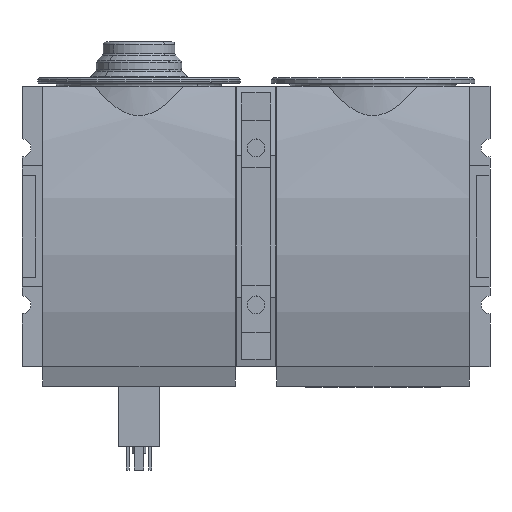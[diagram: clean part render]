
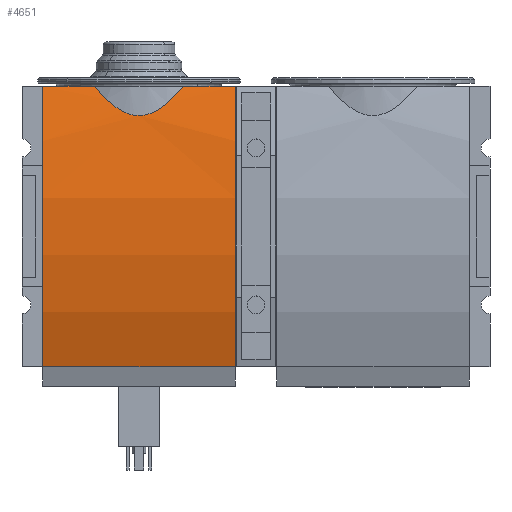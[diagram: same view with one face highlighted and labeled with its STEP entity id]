
A CAD part, front view. The second image highlights one B-rep face of the part: STEP entity #4651.
In plain terms, the highlighted cylindrical face has radius 150 mm (diameter 300 mm), a partial arc.
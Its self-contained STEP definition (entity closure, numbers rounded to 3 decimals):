
#62=CARTESIAN_POINT('',(-35.,0.,98.5));
#63=DIRECTION('',(1.,0.,0.));
#64=DIRECTION('',(0.,-0.34,-0.94));
#65=AXIS2_PLACEMENT_3D('',#62,#63,#64);
#1037=CARTESIAN_POINT('',(35.,0.,98.5));
#1038=DIRECTION('',(1.,0.,0.));
#1039=DIRECTION('',(0.,-0.34,-0.94));
#1040=AXIS2_PLACEMENT_3D('',#1037,#1038,#1039);
#1188=DIRECTION('',(1.,0.,0.));
#1189=VECTOR('',#1188,18.78);
#1190=CARTESIAN_POINT('',(-35.,-51.,-42.564));
#1191=LINE('889',#1190,#1189);
#1195=CARTESIAN_POINT('',(-16.22,-51.,-42.564));
#1196=CARTESIAN_POINT('',(-15.79,-50.472,
-42.755));
#1197=CARTESIAN_POINT('',(-14.952,-49.476,
-43.108));
#1198=CARTESIAN_POINT('',(-13.777,-48.164,
-43.559));
#1199=CARTESIAN_POINT('',(-12.676,-47.013,
-43.944));
#1200=CARTESIAN_POINT('',(-11.646,-46.006,
-44.272));
#1201=CARTESIAN_POINT('',(-10.681,-45.128,-44.552));
#1202=CARTESIAN_POINT('',(-9.774,-44.361,
-44.791));
#1203=CARTESIAN_POINT('',(-8.921,-43.694,
-44.996));
#1204=CARTESIAN_POINT('',(-8.117,-43.115,
-45.171));
#1205=CARTESIAN_POINT('',(-7.352,-42.61,
-45.321));
#1206=CARTESIAN_POINT('',(-6.626,-42.173,
-45.45));
#1207=CARTESIAN_POINT('',(-5.933,-41.796,
-45.56));
#1208=CARTESIAN_POINT('',(-5.269,-41.471,
-45.653));
#1209=CARTESIAN_POINT('',(-4.626,-41.192,
-45.733));
#1210=CARTESIAN_POINT('',(-4.004,-40.955,
-45.801));
#1211=CARTESIAN_POINT('',(-3.4,-40.757,
-45.857));
#1212=CARTESIAN_POINT('',(-2.811,-40.595,
-45.903));
#1213=CARTESIAN_POINT('',(-2.235,-40.465,
-45.939));
#1214=CARTESIAN_POINT('',(-1.669,-40.366,
-45.966));
#1215=CARTESIAN_POINT('',(-1.109,-40.297,
-45.986));
#1216=CARTESIAN_POINT('',(-0.553,-40.255,
-45.997));
#1217=CARTESIAN_POINT('',(0.,-40.242,
-46.001));
#1218=CARTESIAN_POINT('',(0.553,-40.255,
-45.997));
#1219=CARTESIAN_POINT('',(1.109,-40.297,
-45.986));
#1220=CARTESIAN_POINT('',(1.669,-40.366,
-45.966));
#1221=CARTESIAN_POINT('',(2.235,-40.465,
-45.939));
#1222=CARTESIAN_POINT('',(2.811,-40.595,
-45.903));
#1223=CARTESIAN_POINT('',(3.4,-40.757,
-45.857));
#1224=CARTESIAN_POINT('',(4.004,-40.955,
-45.801));
#1225=CARTESIAN_POINT('',(4.626,-41.192,
-45.733));
#1226=CARTESIAN_POINT('',(5.269,-41.471,
-45.653));
#1227=CARTESIAN_POINT('',(5.933,-41.796,
-45.559));
#1228=CARTESIAN_POINT('',(6.626,-42.173,
-45.45));
#1229=CARTESIAN_POINT('',(7.352,-42.61,
-45.321));
#1230=CARTESIAN_POINT('',(8.117,-43.115,
-45.171));
#1231=CARTESIAN_POINT('',(8.921,-43.694,
-44.996));
#1232=CARTESIAN_POINT('',(9.774,-44.361,
-44.791));
#1233=CARTESIAN_POINT('',(10.681,-45.128,
-44.552));
#1234=CARTESIAN_POINT('',(11.646,-46.006,
-44.272));
#1235=CARTESIAN_POINT('',(12.676,-47.013,
-43.944));
#1236=CARTESIAN_POINT('',(13.777,-48.164,
-43.559));
#1237=CARTESIAN_POINT('',(14.952,-49.476,
-43.108));
#1238=CARTESIAN_POINT('',(15.79,-50.472,
-42.755));
#1239=CARTESIAN_POINT('',(16.22,-51.,-42.564));
#1244=DIRECTION('',(1.,0.,0.));
#1245=VECTOR('',#1244,18.78);
#1246=CARTESIAN_POINT('',(16.22,-51.,-42.564));
#1247=LINE('890',#1246,#1245);
#1279=DIRECTION('',(1.,0.,0.));
#1280=VECTOR('',#1279,70.);
#1281=CARTESIAN_POINT('',(-35.,51.,-42.564));
#1282=LINE('34',#1281,#1280);
#2941=CARTESIAN_POINT('',(-35.,-51.,-42.564));
#2942=CARTESIAN_POINT('',(-35.,51.,-42.564));
#2943=VERTEX_POINT('',#2941);
#2944=VERTEX_POINT('',#2942);
#2949=CARTESIAN_POINT('',(35.,-51.,-42.564));
#2950=CARTESIAN_POINT('',(35.,51.,-42.564));
#2951=VERTEX_POINT('',#2949);
#2952=VERTEX_POINT('',#2950);
#3029=CARTESIAN_POINT('',(-16.22,-51.,-42.564));
#3030=VERTEX_POINT('',#3029);
#3031=CARTESIAN_POINT('',(16.22,-51.,-42.564));
#3032=VERTEX_POINT('',#3031);
#4636=CARTESIAN_POINT('',(-35.,0.,98.5));
#4637=DIRECTION('',(1.,0.,0.));
#4638=DIRECTION('',(0.,0.,-1.));
#4639=AXIS2_PLACEMENT_3D('',#4636,#4637,#4638);
#4640=CYLINDRICAL_SURFACE('31',#4639,150.);
#4641=ORIENTED_EDGE('889',*,*,#4480,.T.);
#4643=ORIENTED_EDGE('13190',*,*,#4642,.T.);
#4644=ORIENTED_EDGE('890',*,*,#4476,.T.);
#4645=ORIENTED_EDGE('25',*,*,#4425,.T.);
#4647=ORIENTED_EDGE('34',*,*,#4646,.F.);
#4648=ORIENTED_EDGE('20',*,*,#3478,.F.);
#4649=EDGE_LOOP('31',(#4641,#4643,#4644,#4645,#4647,#4648));
#4650=FACE_OUTER_BOUND('31',#4649,.F.);
#4651=ADVANCED_FACE('31',(#4650),#4640,.T.);
#66=CIRCLE('20',#65,150.);
#1041=CIRCLE('25',#1040,150.);
#1240=B_SPLINE_CURVE_WITH_KNOTS('13190',3,(#1195,#1196,#1197,#1198,#1199,#1200,
#1201,#1202,#1203,#1204,#1205,#1206,#1207,#1208,#1209,#1210,#1211,#1212,#1213,
#1214,#1215,#1216,#1217,#1218,#1219,#1220,#1221,#1222,#1223,#1224,#1225,#1226,
#1227,#1228,#1229,#1230,#1231,#1232,#1233,#1234,#1235,#1236,#1237,#1238,#1239),
.UNSPECIFIED.,.F.,.F.,(4,1,1,1,1,1,1,1,1,1,1,1,1,1,1,1,1,1,1,1,1,1,1,1,1,1,1,1,
1,1,1,1,1,1,1,1,1,1,1,1,1,1,4),(0.,0.024,0.048,
0.071,0.095,0.119,0.143,
0.167,0.19,0.214,0.238,
0.262,0.286,0.31,0.333,
0.357,0.381,0.405,0.429,
0.452,0.476,0.5,0.524,0.548,
0.571,0.595,0.619,0.643,
0.667,0.69,0.714,0.738,
0.762,0.786,0.81,0.833,
0.857,0.881,0.905,0.929,
0.952,0.976,1.),.UNSPECIFIED.);
#3478=EDGE_CURVE('20',#2943,#2944,#66,.T.);
#4425=EDGE_CURVE('25',#2951,#2952,#1041,.T.);
#4476=EDGE_CURVE('890',#3032,#2951,#1247,.T.);
#4480=EDGE_CURVE('889',#2943,#3030,#1191,.T.);
#4642=EDGE_CURVE('13190',#3030,#3032,#1240,.T.);
#4646=EDGE_CURVE('34',#2944,#2952,#1282,.T.);
